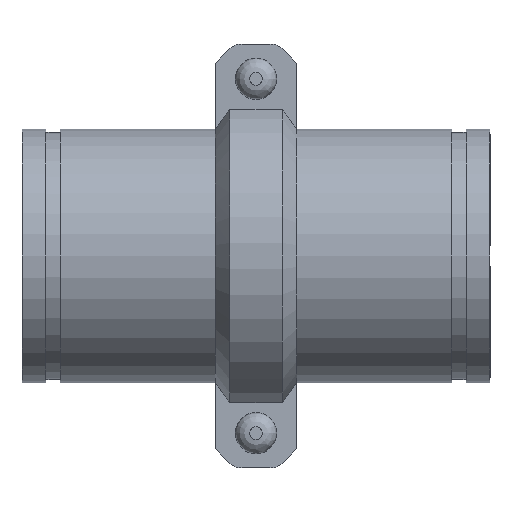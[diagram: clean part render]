
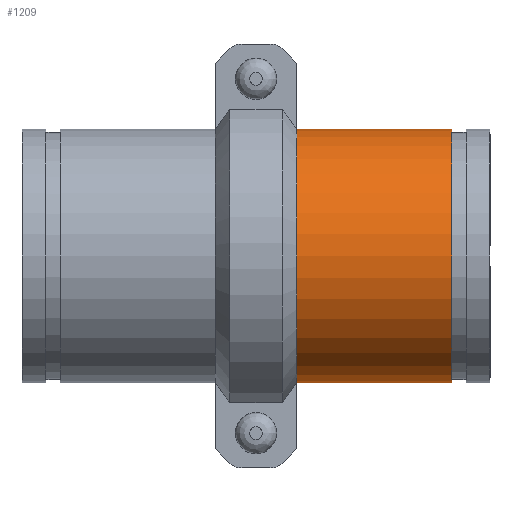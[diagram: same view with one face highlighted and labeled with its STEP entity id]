
A CAD part, front view. The second image highlights one B-rep face of the part: STEP entity #1209.
In plain terms, the highlighted cylindrical face has radius 84.138 mm (diameter 168.275 mm), a full revolution.
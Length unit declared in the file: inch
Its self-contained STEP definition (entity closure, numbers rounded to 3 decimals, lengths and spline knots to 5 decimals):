
#48=LINE('',#1911,#135);
#135=VECTOR('',#1552,3.3125);
#222=CYLINDRICAL_SURFACE('',#1377,3.3125);
#267=FACE_OUTER_BOUND('',#340,.T.);
#340=EDGE_LOOP('',(#797,#798,#799,#800,#801,#802));
#432=CIRCLE('',#1375,3.3125);
#433=CIRCLE('',#1376,3.3125);
#434=CIRCLE('',#1378,3.3125);
#435=CIRCLE('',#1379,3.3125);
#500=VERTEX_POINT('',#1902);
#501=VERTEX_POINT('',#1903);
#502=VERTEX_POINT('',#1907);
#503=VERTEX_POINT('',#1908);
#617=EDGE_CURVE('',#500,#501,#432,.T.);
#618=EDGE_CURVE('',#501,#500,#433,.T.);
#619=EDGE_CURVE('',#502,#503,#434,.T.);
#620=EDGE_CURVE('',#503,#502,#435,.T.);
#621=EDGE_CURVE('',#503,#501,#48,.T.);
#797=ORIENTED_EDGE('',*,*,#619,.F.);
#798=ORIENTED_EDGE('',*,*,#620,.F.);
#799=ORIENTED_EDGE('',*,*,#621,.T.);
#800=ORIENTED_EDGE('',*,*,#618,.T.);
#801=ORIENTED_EDGE('',*,*,#617,.T.);
#802=ORIENTED_EDGE('',*,*,#621,.F.);
#1209=ADVANCED_FACE('',(#267),#222,.T.);
#1375=AXIS2_PLACEMENT_3D('',#1904,#1542,#1543);
#1376=AXIS2_PLACEMENT_3D('',#1905,#1544,#1545);
#1377=AXIS2_PLACEMENT_3D('',#1906,#1546,#1547);
#1378=AXIS2_PLACEMENT_3D('',#1909,#1548,#1549);
#1379=AXIS2_PLACEMENT_3D('',#1910,#1550,#1551);
#1542=DIRECTION('center_axis',(-1.,0.,0.));
#1543=DIRECTION('ref_axis',(0.,0.,1.));
#1544=DIRECTION('center_axis',(-1.,0.,0.));
#1545=DIRECTION('ref_axis',(0.,0.,1.));
#1546=DIRECTION('center_axis',(-1.,0.,0.));
#1547=DIRECTION('ref_axis',(0.,1.,0.));
#1548=DIRECTION('center_axis',(-1.,0.,0.));
#1549=DIRECTION('ref_axis',(0.,0.,1.));
#1550=DIRECTION('center_axis',(-1.,0.,0.));
#1551=DIRECTION('ref_axis',(0.,0.,1.));
#1552=DIRECTION('',(1.,0.,0.));
#1902=CARTESIAN_POINT('',(2.0225,3.3125,0.));
#1903=CARTESIAN_POINT('',(2.0225,-3.3125,0.));
#1904=CARTESIAN_POINT('Origin',(2.0225,0.,0.));
#1905=CARTESIAN_POINT('Origin',(2.0225,0.,0.));
#1906=CARTESIAN_POINT('Origin',(0.,0.,
0.));
#1907=CARTESIAN_POINT('',(-2.0225,3.3125,0.));
#1908=CARTESIAN_POINT('',(-2.0225,-3.3125,0.));
#1909=CARTESIAN_POINT('Origin',(-2.0225,0.,0.));
#1910=CARTESIAN_POINT('Origin',(-2.0225,0.,0.));
#1911=CARTESIAN_POINT('',(0.,-3.3125,0.));
